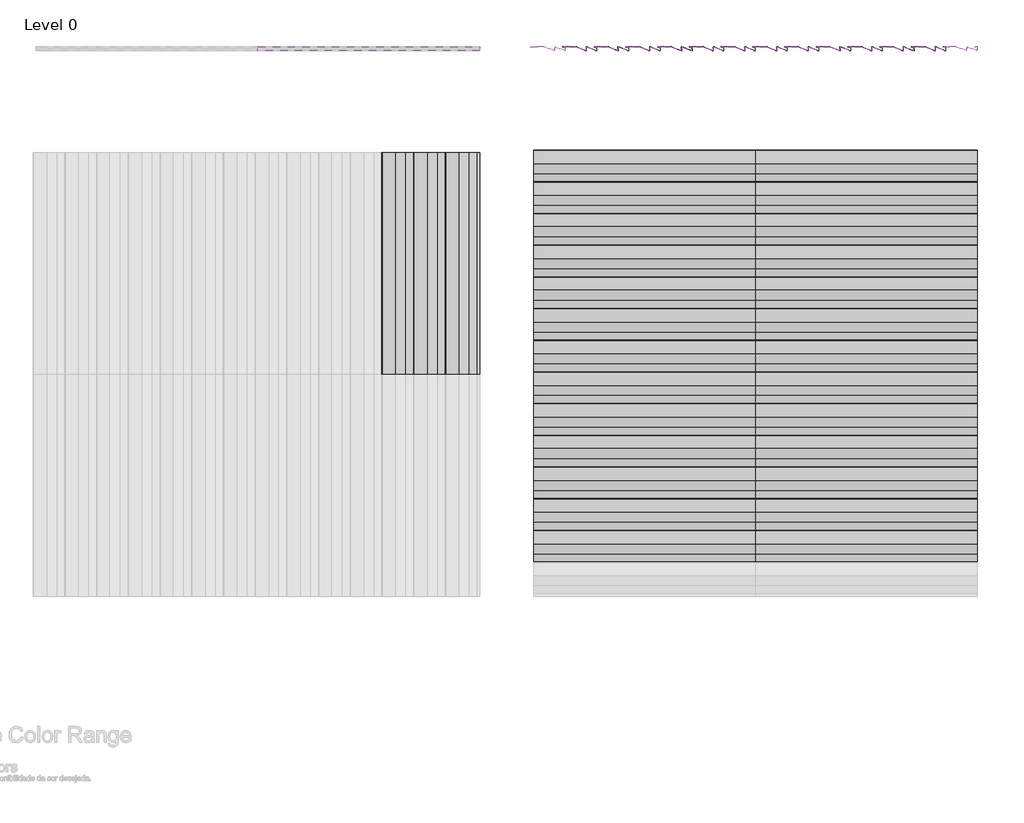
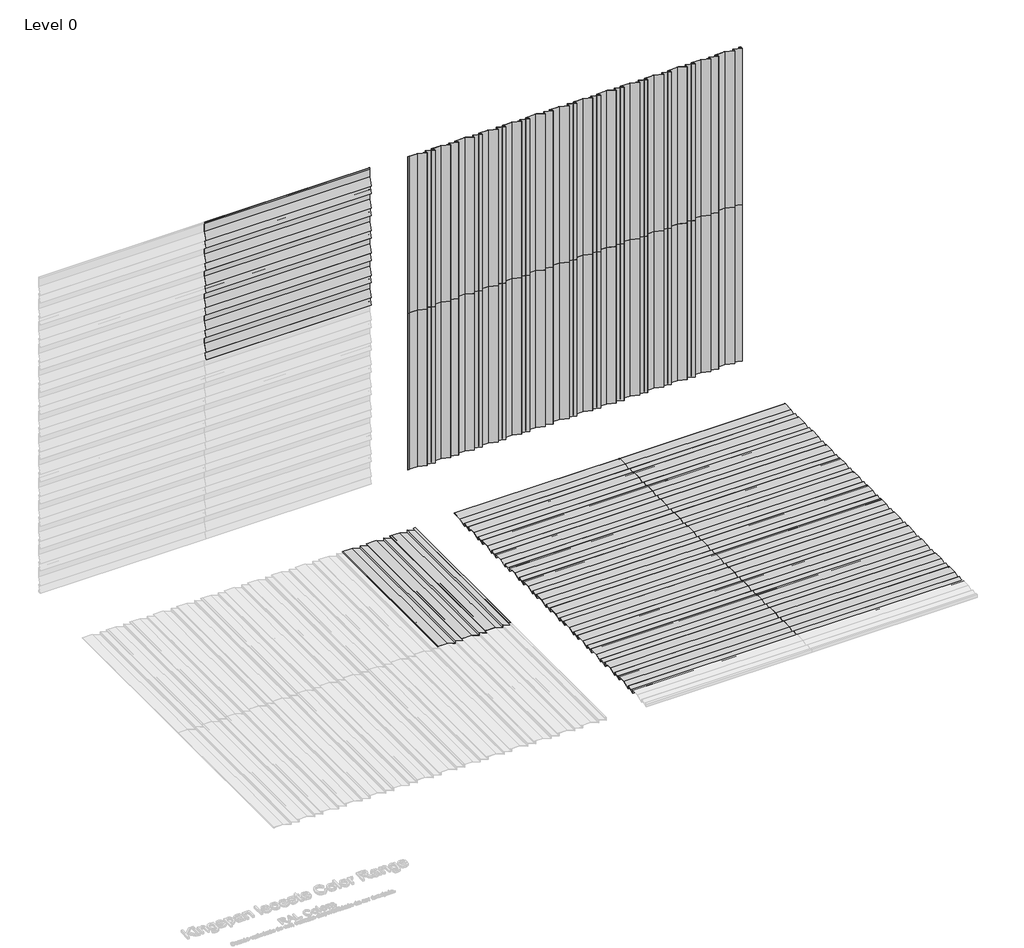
# One storey, part 2 of 2: 63 proxies.
"""IFC4 building model written with IfcOpenShell, lengths in millimetres."""

from ifc_helpers import new_model, si_unit, origin, place, context, project, spatial, transform, mapped, element, save
from components import ps3_0_standard_panel_ns_63d88878, ps3_0_standard_panel_ns_83fd88ae

model = new_model("IFC4")

# Units and contexts
model_context = context("Model", 3, world=origin())
ifc_project = project(units=[si_unit("LENGTHUNIT", "METRE", prefix="MILLI")], contexts=[model_context])

# Site, building, storey
site = spatial("IfcSite", under=ifc_project)
building = spatial("IfcBuilding", under=site)
storey = spatial("IfcBuildingStorey", under=building, Name="Level 0", Elevation=0.0)

# Proxies
placement = place(None, origin())
ps3_0_standard_panel_ns_shape = ps3_0_standard_panel_ns_63d88878(model_context)
element("IfcBuildingElementProxy", 1, Name="PS3.0 : Standard Panel_NS", ObjectType="PS3.0 : Standard Panel_NS", at=placement, inside=storey, context=model_context, shape_type="MappedRepresentation", body=[
    mapped(ps3_0_standard_panel_ns_shape, transform((2189.7088665, 5063.0274074, 0.0), x_axis=(0.0, 0.0, 1.0), y_axis=(-1.0, 0.0, 0.0), z_axis=(0.0, -1.0, 0.0))),
])
element("IfcBuildingElementProxy", 2, Name="PS3.0 : Standard Panel_NS", ObjectType="PS3.0 : Standard Panel_NS", at=placement, inside=storey, context=model_context, shape_type="MappedRepresentation", body=[
    mapped(ps3_0_standard_panel_ns_shape, transform((2189.7088665, 5063.0274074, 2100.0), x_axis=(0.0, 0.0, 1.0), y_axis=(-1.0, 0.0, 0.0), z_axis=(0.0, -1.0, 0.0))),
])
element("IfcBuildingElementProxy", 3, Name="PS3.0 : Standard Panel_NS", ObjectType="PS3.0 : Standard Panel_NS", at=placement, inside=storey, context=model_context, shape_type="MappedRepresentation", body=[
    mapped(ps3_0_standard_panel_ns_shape, transform((-1317.7637295, 5063.0274074, 3300.0), x_axis=(1.0, 0.0, 0.0), y_axis=(0.0, 0.0, 1.0), z_axis=(0.0, -1.0, 0.0))),
])
element("IfcBuildingElementProxy", 4, Name="PS3.0 : Standard Panel_NS", ObjectType="PS3.0 : Standard Panel_NS", at=placement, inside=storey, context=model_context, shape_type="MappedRepresentation", body=[
    mapped(ps3_0_standard_panel_ns_shape, transform((4589.7088665, 5063.0274074, 0.0), x_axis=(0.0, 0.0, 1.0), y_axis=(-1.0, 0.0, 0.0), z_axis=(0.0, -1.0, 0.0))),
])
element("IfcBuildingElementProxy", 5, Name="PS3.0 : Standard Panel_NS", ObjectType="PS3.0 : Standard Panel_NS", at=placement, inside=storey, context=model_context, shape_type="MappedRepresentation", body=[
    mapped(ps3_0_standard_panel_ns_shape, transform((4589.7088665, 5063.0274074, 2100.0), x_axis=(0.0, 0.0, 1.0), y_axis=(-1.0, 0.0, 0.0), z_axis=(0.0, -1.0, 0.0))),
])
ps3_0_standard_panel_ns_2_shape = ps3_0_standard_panel_ns_83fd88ae(model_context)
element("IfcBuildingElementProxy", 6, Name="PS3.0 : Standard Panel_NS", ObjectType="PS3.0 : Standard Panel_NS", at=placement, inside=storey, context=model_context, shape_type="MappedRepresentation", body=[
    mapped(ps3_0_standard_panel_ns_2_shape, transform((1289.7088668, 758.3113453, 0.0), x_axis=(1.0, 0.0, 0.0), y_axis=(0.0, 1.0, 0.0), z_axis=(0.0, 0.0, 1.0))),
])
element("IfcBuildingElementProxy", 7, Name="PS3.0 : Standard Panel_NS", ObjectType="PS3.0 : Standard Panel_NS", at=placement, inside=storey, context=model_context, shape_type="MappedRepresentation", body=[
    mapped(ps3_0_standard_panel_ns_2_shape, transform((1289.7088668, 3158.3113453, 0.0), x_axis=(1.0, 0.0, 0.0), y_axis=(0.0, 1.0, 0.0), z_axis=(0.0, 0.0, 1.0))),
])
element("IfcBuildingElementProxy", 8, Name="PS3.0 : Standard Panel_NS", ObjectType="PS3.0 : Standard Panel_NS", at=placement, inside=storey, context=model_context, shape_type="MappedRepresentation", body=[
    mapped(ps3_0_standard_panel_ns_2_shape, transform((3389.7088668, 758.3113453, 0.0), x_axis=(1.0, 0.0, 0.0), y_axis=(0.0, 1.0, 0.0), z_axis=(0.0, 0.0, 1.0))),
])
element("IfcBuildingElementProxy", 9, Name="PS3.0 : Standard Panel_NS", ObjectType="PS3.0 : Standard Panel_NS", at=placement, inside=storey, context=model_context, shape_type="MappedRepresentation", body=[
    mapped(ps3_0_standard_panel_ns_2_shape, transform((3389.7088668, 3158.3113453, 0.0), x_axis=(1.0, 0.0, 0.0), y_axis=(0.0, 1.0, 0.0), z_axis=(0.0, 0.0, 1.0))),
])
element("IfcBuildingElementProxy", 10, Name="PS3.0 : Standard Panel_NS", ObjectType="PS3.0 : Standard Panel_NS", at=placement, inside=storey, context=model_context, shape_type="MappedRepresentation", body=[
    mapped(ps3_0_standard_panel_ns_shape, transform((3089.7088665, 5063.0274074, 0.0), x_axis=(0.0, 0.0, 1.0), y_axis=(-1.0, 0.0, 0.0), z_axis=(0.0, -1.0, 0.0))),
])
element("IfcBuildingElementProxy", 11, Name="PS3.0 : Standard Panel_NS", ObjectType="PS3.0 : Standard Panel_NS", at=placement, inside=storey, context=model_context, shape_type="MappedRepresentation", body=[
    mapped(ps3_0_standard_panel_ns_shape, transform((3089.7088665, 5063.0274074, 2100.0), x_axis=(0.0, 0.0, 1.0), y_axis=(-1.0, 0.0, 0.0), z_axis=(0.0, -1.0, 0.0))),
])
element("IfcBuildingElementProxy", 12, Name="PS3.0 : Standard Panel_NS", ObjectType="PS3.0 : Standard Panel_NS", at=placement, inside=storey, context=model_context, shape_type="MappedRepresentation", body=[
    mapped(ps3_0_standard_panel_ns_shape, transform((-1317.7637295, 5063.0274074, 2400.0), x_axis=(1.0, 0.0, 0.0), y_axis=(0.0, 0.0, 1.0), z_axis=(0.0, -1.0, 0.0))),
])
element("IfcBuildingElementProxy", 13, Name="PS3.0 : Standard Panel_NS", ObjectType="PS3.0 : Standard Panel_NS", at=placement, inside=storey, context=model_context, shape_type="MappedRepresentation", body=[
    mapped(ps3_0_standard_panel_ns_shape, transform((5489.7088666, 5063.0274074, 0.0), x_axis=(0.0, 0.0, 1.0), y_axis=(-1.0, 0.0, 0.0), z_axis=(0.0, -1.0, 0.0))),
])
element("IfcBuildingElementProxy", 14, Name="PS3.0 : Standard Panel_NS", ObjectType="PS3.0 : Standard Panel_NS", at=placement, inside=storey, context=model_context, shape_type="MappedRepresentation", body=[
    mapped(ps3_0_standard_panel_ns_shape, transform((5489.7088666, 5063.0274074, 2100.0), x_axis=(0.0, 0.0, 1.0), y_axis=(-1.0, 0.0, 0.0), z_axis=(0.0, -1.0, 0.0))),
])
element("IfcBuildingElementProxy", 15, Name="PS3.0 : Standard Panel_NS", ObjectType="PS3.0 : Standard Panel_NS", at=placement, inside=storey, context=model_context, shape_type="MappedRepresentation", body=[
    mapped(ps3_0_standard_panel_ns_2_shape, transform((1289.7088668, 2258.3113453, 0.0), x_axis=(1.0, 0.0, 0.0), y_axis=(0.0, 1.0, 0.0), z_axis=(0.0, 0.0, 1.0))),
])
element("IfcBuildingElementProxy", 16, Name="PS3.0 : Standard Panel_NS", ObjectType="PS3.0 : Standard Panel_NS", at=placement, inside=storey, context=model_context, shape_type="MappedRepresentation", body=[
    mapped(ps3_0_standard_panel_ns_2_shape, transform((782.2362705, 1958.3113453, 0.0), x_axis=(0.0, 1.0, 0.0), y_axis=(-1.0, 0.0, 0.0), z_axis=(0.0, 0.0, 1.0))),
])
element("IfcBuildingElementProxy", 17, Name="PS3.0 : Standard Panel_NS", ObjectType="PS3.0 : Standard Panel_NS", at=placement, inside=storey, context=model_context, shape_type="MappedRepresentation", body=[
    mapped(ps3_0_standard_panel_ns_2_shape, transform((3389.7088668, 2258.3113453, 0.0), x_axis=(1.0, 0.0, 0.0), y_axis=(0.0, 1.0, 0.0), z_axis=(0.0, 0.0, 1.0))),
])
element("IfcBuildingElementProxy", 18, Name="PS3.0 : Standard Panel_NS", ObjectType="PS3.0 : Standard Panel_NS", at=placement, inside=storey, context=model_context, shape_type="MappedRepresentation", body=[
    mapped(ps3_0_standard_panel_ns_2_shape, transform((1289.7088668, 1358.3113453, 0.0), x_axis=(1.0, 0.0, 0.0), y_axis=(0.0, 1.0, 0.0), z_axis=(0.0, 0.0, 1.0))),
])
element("IfcBuildingElementProxy", 19, Name="PS3.0 : Standard Panel_NS", ObjectType="PS3.0 : Standard Panel_NS", at=placement, inside=storey, context=model_context, shape_type="MappedRepresentation", body=[
    mapped(ps3_0_standard_panel_ns_2_shape, transform((1289.7088668, 3758.3113453, 0.0), x_axis=(1.0, 0.0, 0.0), y_axis=(0.0, 1.0, 0.0), z_axis=(0.0, 0.0, 1.0))),
])
element("IfcBuildingElementProxy", 20, Name="PS3.0 : Standard Panel_NS", ObjectType="PS3.0 : Standard Panel_NS", at=placement, inside=storey, context=model_context, shape_type="MappedRepresentation", body=[
    mapped(ps3_0_standard_panel_ns_2_shape, transform((3389.7088668, 1358.3113453, 0.0), x_axis=(1.0, 0.0, 0.0), y_axis=(0.0, 1.0, 0.0), z_axis=(0.0, 0.0, 1.0))),
])
element("IfcBuildingElementProxy", 21, Name="PS3.0 : Standard Panel_NS", ObjectType="PS3.0 : Standard Panel_NS", at=placement, inside=storey, context=model_context, shape_type="MappedRepresentation", body=[
    mapped(ps3_0_standard_panel_ns_2_shape, transform((3389.7088668, 3758.3113453, 0.0), x_axis=(1.0, 0.0, 0.0), y_axis=(0.0, 1.0, 0.0), z_axis=(0.0, 0.0, 1.0))),
])
element("IfcBuildingElementProxy", 22, Name="PS3.0 : Standard Panel_NS", ObjectType="PS3.0 : Standard Panel_NS", at=placement, inside=storey, context=model_context, shape_type="MappedRepresentation", body=[
    mapped(ps3_0_standard_panel_ns_shape, transform((1589.7088666, 5063.0274074, 0.0), x_axis=(0.0, 0.0, 1.0), y_axis=(-1.0, 0.0, 0.0), z_axis=(0.0, -1.0, 0.0))),
])
element("IfcBuildingElementProxy", 23, Name="PS3.0 : Standard Panel_NS", ObjectType="PS3.0 : Standard Panel_NS", at=placement, inside=storey, context=model_context, shape_type="MappedRepresentation", body=[
    mapped(ps3_0_standard_panel_ns_shape, transform((1589.7088666, 5063.0274074, 2100.0), x_axis=(0.0, 0.0, 1.0), y_axis=(-1.0, 0.0, 0.0), z_axis=(0.0, -1.0, 0.0))),
])
element("IfcBuildingElementProxy", 24, Name="PS3.0 : Standard Panel_NS", ObjectType="PS3.0 : Standard Panel_NS", at=placement, inside=storey, context=model_context, shape_type="MappedRepresentation", body=[
    mapped(ps3_0_standard_panel_ns_shape, transform((-1317.7637295, 5063.0274074, 3900.0), x_axis=(1.0, 0.0, 0.0), y_axis=(0.0, 0.0, 1.0), z_axis=(0.0, -1.0, 0.0))),
])
element("IfcBuildingElementProxy", 25, Name="PS3.0 : Standard Panel_NS", ObjectType="PS3.0 : Standard Panel_NS", at=placement, inside=storey, context=model_context, shape_type="MappedRepresentation", body=[
    mapped(ps3_0_standard_panel_ns_shape, transform((3989.7088665, 5063.0274074, 0.0), x_axis=(0.0, 0.0, 1.0), y_axis=(-1.0, 0.0, 0.0), z_axis=(0.0, -1.0, 0.0))),
])
element("IfcBuildingElementProxy", 26, Name="PS3.0 : Standard Panel_NS", ObjectType="PS3.0 : Standard Panel_NS", at=placement, inside=storey, context=model_context, shape_type="MappedRepresentation", body=[
    mapped(ps3_0_standard_panel_ns_shape, transform((3989.7088665, 5063.0274074, 2100.0), x_axis=(0.0, 0.0, 1.0), y_axis=(-1.0, 0.0, 0.0), z_axis=(0.0, -1.0, 0.0))),
])
element("IfcBuildingElementProxy", 27, Name="PS3.0 : Standard Panel_NS", ObjectType="PS3.0 : Standard Panel_NS", at=placement, inside=storey, context=model_context, shape_type="MappedRepresentation", body=[
    mapped(ps3_0_standard_panel_ns_shape, transform((2789.7088665, 5063.0274074, 0.0), x_axis=(0.0, 0.0, 1.0), y_axis=(-1.0, 0.0, 0.0), z_axis=(0.0, -1.0, 0.0))),
])
element("IfcBuildingElementProxy", 28, Name="PS3.0 : Standard Panel_NS", ObjectType="PS3.0 : Standard Panel_NS", at=placement, inside=storey, context=model_context, shape_type="MappedRepresentation", body=[
    mapped(ps3_0_standard_panel_ns_shape, transform((2789.7088665, 5063.0274074, 2100.0), x_axis=(0.0, 0.0, 1.0), y_axis=(-1.0, 0.0, 0.0), z_axis=(0.0, -1.0, 0.0))),
])
element("IfcBuildingElementProxy", 29, Name="PS3.0 : Standard Panel_NS", ObjectType="PS3.0 : Standard Panel_NS", at=placement, inside=storey, context=model_context, shape_type="MappedRepresentation", body=[
    mapped(ps3_0_standard_panel_ns_shape, transform((-1317.7637295, 5063.0274074, 2700.0), x_axis=(1.0, 0.0, 0.0), y_axis=(0.0, 0.0, 1.0), z_axis=(0.0, -1.0, 0.0))),
])
element("IfcBuildingElementProxy", 30, Name="PS3.0 : Standard Panel_NS", ObjectType="PS3.0 : Standard Panel_NS", at=placement, inside=storey, context=model_context, shape_type="MappedRepresentation", body=[
    mapped(ps3_0_standard_panel_ns_shape, transform((5189.7088665, 5063.0274074, 0.0), x_axis=(0.0, 0.0, 1.0), y_axis=(-1.0, 0.0, 0.0), z_axis=(0.0, -1.0, 0.0))),
])
element("IfcBuildingElementProxy", 31, Name="PS3.0 : Standard Panel_NS", ObjectType="PS3.0 : Standard Panel_NS", at=placement, inside=storey, context=model_context, shape_type="MappedRepresentation", body=[
    mapped(ps3_0_standard_panel_ns_shape, transform((5189.7088665, 5063.0274074, 2100.0), x_axis=(0.0, 0.0, 1.0), y_axis=(-1.0, 0.0, 0.0), z_axis=(0.0, -1.0, 0.0))),
])
element("IfcBuildingElementProxy", 32, Name="PS3.0 : Standard Panel_NS", ObjectType="PS3.0 : Standard Panel_NS", at=placement, inside=storey, context=model_context, shape_type="MappedRepresentation", body=[
    mapped(ps3_0_standard_panel_ns_shape, transform((2489.7088665, 5063.0274074, 0.0), x_axis=(0.0, 0.0, 1.0), y_axis=(-1.0, 0.0, 0.0), z_axis=(0.0, -1.0, 0.0))),
])
element("IfcBuildingElementProxy", 33, Name="PS3.0 : Standard Panel_NS", ObjectType="PS3.0 : Standard Panel_NS", at=placement, inside=storey, context=model_context, shape_type="MappedRepresentation", body=[
    mapped(ps3_0_standard_panel_ns_shape, transform((2489.7088665, 5063.0274074, 2100.0), x_axis=(0.0, 0.0, 1.0), y_axis=(-1.0, 0.0, 0.0), z_axis=(0.0, -1.0, 0.0))),
])
element("IfcBuildingElementProxy", 34, Name="PS3.0 : Standard Panel_NS", ObjectType="PS3.0 : Standard Panel_NS", at=placement, inside=storey, context=model_context, shape_type="MappedRepresentation", body=[
    mapped(ps3_0_standard_panel_ns_shape, transform((-1317.7637295, 5063.0274074, 3000.0), x_axis=(1.0, 0.0, 0.0), y_axis=(0.0, 0.0, 1.0), z_axis=(0.0, -1.0, 0.0))),
])
element("IfcBuildingElementProxy", 35, Name="PS3.0 : Standard Panel_NS", ObjectType="PS3.0 : Standard Panel_NS", at=placement, inside=storey, context=model_context, shape_type="MappedRepresentation", body=[
    mapped(ps3_0_standard_panel_ns_shape, transform((4889.7088665, 5063.0274074, 0.0), x_axis=(0.0, 0.0, 1.0), y_axis=(-1.0, 0.0, 0.0), z_axis=(0.0, -1.0, 0.0))),
])
element("IfcBuildingElementProxy", 36, Name="PS3.0 : Standard Panel_NS", ObjectType="PS3.0 : Standard Panel_NS", at=placement, inside=storey, context=model_context, shape_type="MappedRepresentation", body=[
    mapped(ps3_0_standard_panel_ns_shape, transform((4889.7088665, 5063.0274074, 2100.0), x_axis=(0.0, 0.0, 1.0), y_axis=(-1.0, 0.0, 0.0), z_axis=(0.0, -1.0, 0.0))),
])
element("IfcBuildingElementProxy", 37, Name="PS3.0 : Standard Panel_NS", ObjectType="PS3.0 : Standard Panel_NS", at=placement, inside=storey, context=model_context, shape_type="MappedRepresentation", body=[
    mapped(ps3_0_standard_panel_ns_shape, transform((1889.7088665, 5063.0274074, 0.0), x_axis=(0.0, 0.0, 1.0), y_axis=(-1.0, 0.0, 0.0), z_axis=(0.0, -1.0, 0.0))),
])
element("IfcBuildingElementProxy", 38, Name="PS3.0 : Standard Panel_NS", ObjectType="PS3.0 : Standard Panel_NS", at=placement, inside=storey, context=model_context, shape_type="MappedRepresentation", body=[
    mapped(ps3_0_standard_panel_ns_shape, transform((1889.7088665, 5063.0274074, 2100.0), x_axis=(0.0, 0.0, 1.0), y_axis=(-1.0, 0.0, 0.0), z_axis=(0.0, -1.0, 0.0))),
])
element("IfcBuildingElementProxy", 39, Name="PS3.0 : Standard Panel_NS", ObjectType="PS3.0 : Standard Panel_NS", at=placement, inside=storey, context=model_context, shape_type="MappedRepresentation", body=[
    mapped(ps3_0_standard_panel_ns_shape, transform((-1317.7637295, 5063.0274074, 3600.0), x_axis=(1.0, 0.0, 0.0), y_axis=(0.0, 0.0, 1.0), z_axis=(0.0, -1.0, 0.0))),
])
element("IfcBuildingElementProxy", 40, Name="PS3.0 : Standard Panel_NS", ObjectType="PS3.0 : Standard Panel_NS", at=placement, inside=storey, context=model_context, shape_type="MappedRepresentation", body=[
    mapped(ps3_0_standard_panel_ns_shape, transform((4289.7088665, 5063.0274074, 0.0), x_axis=(0.0, 0.0, 1.0), y_axis=(-1.0, 0.0, 0.0), z_axis=(0.0, -1.0, 0.0))),
])
element("IfcBuildingElementProxy", 41, Name="PS3.0 : Standard Panel_NS", ObjectType="PS3.0 : Standard Panel_NS", at=placement, inside=storey, context=model_context, shape_type="MappedRepresentation", body=[
    mapped(ps3_0_standard_panel_ns_shape, transform((4289.7088665, 5063.0274074, 2100.0), x_axis=(0.0, 0.0, 1.0), y_axis=(-1.0, 0.0, 0.0), z_axis=(0.0, -1.0, 0.0))),
])
element("IfcBuildingElementProxy", 42, Name="PS3.0 : Standard Panel_NS", ObjectType="PS3.0 : Standard Panel_NS", at=placement, inside=storey, context=model_context, shape_type="MappedRepresentation", body=[
    mapped(ps3_0_standard_panel_ns_shape, transform((3689.7088665, 5063.0274074, 0.0), x_axis=(0.0, 0.0, 1.0), y_axis=(-1.0, 0.0, 0.0), z_axis=(0.0, -1.0, 0.0))),
])
element("IfcBuildingElementProxy", 43, Name="PS3.0 : Standard Panel_NS", ObjectType="PS3.0 : Standard Panel_NS", at=placement, inside=storey, context=model_context, shape_type="MappedRepresentation", body=[
    mapped(ps3_0_standard_panel_ns_shape, transform((3689.7088665, 5063.0274074, 2100.0), x_axis=(0.0, 0.0, 1.0), y_axis=(-1.0, 0.0, 0.0), z_axis=(0.0, -1.0, 0.0))),
])
element("IfcBuildingElementProxy", 44, Name="PS3.0 : Standard Panel_NS", ObjectType="PS3.0 : Standard Panel_NS", at=placement, inside=storey, context=model_context, shape_type="MappedRepresentation", body=[
    mapped(ps3_0_standard_panel_ns_shape, transform((3389.7088665, 5063.0274074, 0.0), x_axis=(0.0, 0.0, 1.0), y_axis=(-1.0, 0.0, 0.0), z_axis=(0.0, -1.0, 0.0))),
])
element("IfcBuildingElementProxy", 45, Name="PS3.0 : Standard Panel_NS", ObjectType="PS3.0 : Standard Panel_NS", at=placement, inside=storey, context=model_context, shape_type="MappedRepresentation", body=[
    mapped(ps3_0_standard_panel_ns_shape, transform((3389.7088665, 5063.0274074, 2100.0), x_axis=(0.0, 0.0, 1.0), y_axis=(-1.0, 0.0, 0.0), z_axis=(0.0, -1.0, 0.0))),
])
element("IfcBuildingElementProxy", 46, Name="PS3.0 : Standard Panel_NS", ObjectType="PS3.0 : Standard Panel_NS", at=placement, inside=storey, context=model_context, shape_type="MappedRepresentation", body=[
    mapped(ps3_0_standard_panel_ns_2_shape, transform((1289.7088668, 158.3113453, 0.0), x_axis=(1.0, 0.0, 0.0), y_axis=(0.0, 1.0, 0.0), z_axis=(0.0, 0.0, 1.0))),
])
element("IfcBuildingElementProxy", 47, Name="PS3.0 : Standard Panel_NS", ObjectType="PS3.0 : Standard Panel_NS", at=placement, inside=storey, context=model_context, shape_type="MappedRepresentation", body=[
    mapped(ps3_0_standard_panel_ns_2_shape, transform((1289.7088668, 2558.3113453, 0.0), x_axis=(1.0, 0.0, 0.0), y_axis=(0.0, 1.0, 0.0), z_axis=(0.0, 0.0, 1.0))),
])
element("IfcBuildingElementProxy", 48, Name="PS3.0 : Standard Panel_NS", ObjectType="PS3.0 : Standard Panel_NS", at=placement, inside=storey, context=model_context, shape_type="MappedRepresentation", body=[
    mapped(ps3_0_standard_panel_ns_2_shape, transform((482.2362703, 1958.3113453, 0.0), x_axis=(0.0, 1.0, 0.0), y_axis=(-1.0, 0.0, 0.0), z_axis=(0.0, 0.0, 1.0))),
])
element("IfcBuildingElementProxy", 49, Name="PS3.0 : Standard Panel_NS", ObjectType="PS3.0 : Standard Panel_NS", at=placement, inside=storey, context=model_context, shape_type="MappedRepresentation", body=[
    mapped(ps3_0_standard_panel_ns_2_shape, transform((3389.7088668, 158.3113453, 0.0), x_axis=(1.0, 0.0, 0.0), y_axis=(0.0, 1.0, 0.0), z_axis=(0.0, 0.0, 1.0))),
])
element("IfcBuildingElementProxy", 50, Name="PS3.0 : Standard Panel_NS", ObjectType="PS3.0 : Standard Panel_NS", at=placement, inside=storey, context=model_context, shape_type="MappedRepresentation", body=[
    mapped(ps3_0_standard_panel_ns_2_shape, transform((3389.7088668, 2558.3113453, 0.0), x_axis=(1.0, 0.0, 0.0), y_axis=(0.0, 1.0, 0.0), z_axis=(0.0, 0.0, 1.0))),
])
element("IfcBuildingElementProxy", 51, Name="PS3.0 : Standard Panel_NS", ObjectType="PS3.0 : Standard Panel_NS", at=placement, inside=storey, context=model_context, shape_type="MappedRepresentation", body=[
    mapped(ps3_0_standard_panel_ns_2_shape, transform((1289.7088668, 458.3113453, 0.0), x_axis=(1.0, 0.0, 0.0), y_axis=(0.0, 1.0, 0.0), z_axis=(0.0, 0.0, 1.0))),
])
element("IfcBuildingElementProxy", 52, Name="PS3.0 : Standard Panel_NS", ObjectType="PS3.0 : Standard Panel_NS", at=placement, inside=storey, context=model_context, shape_type="MappedRepresentation", body=[
    mapped(ps3_0_standard_panel_ns_2_shape, transform((1289.7088668, 2858.3113453, 0.0), x_axis=(1.0, 0.0, 0.0), y_axis=(0.0, 1.0, 0.0), z_axis=(0.0, 0.0, 1.0))),
])
element("IfcBuildingElementProxy", 53, Name="PS3.0 : Standard Panel_NS", ObjectType="PS3.0 : Standard Panel_NS", at=placement, inside=storey, context=model_context, shape_type="MappedRepresentation", body=[
    mapped(ps3_0_standard_panel_ns_2_shape, transform((182.2362703, 1958.3113453, 0.0), x_axis=(0.0, 1.0, 0.0), y_axis=(-1.0, 0.0, 0.0), z_axis=(0.0, 0.0, 1.0))),
])
element("IfcBuildingElementProxy", 54, Name="PS3.0 : Standard Panel_NS", ObjectType="PS3.0 : Standard Panel_NS", at=placement, inside=storey, context=model_context, shape_type="MappedRepresentation", body=[
    mapped(ps3_0_standard_panel_ns_2_shape, transform((3389.7088668, 458.3113453, 0.0), x_axis=(1.0, 0.0, 0.0), y_axis=(0.0, 1.0, 0.0), z_axis=(0.0, 0.0, 1.0))),
])
element("IfcBuildingElementProxy", 55, Name="PS3.0 : Standard Panel_NS", ObjectType="PS3.0 : Standard Panel_NS", at=placement, inside=storey, context=model_context, shape_type="MappedRepresentation", body=[
    mapped(ps3_0_standard_panel_ns_2_shape, transform((3389.7088668, 2858.3113453, 0.0), x_axis=(1.0, 0.0, 0.0), y_axis=(0.0, 1.0, 0.0), z_axis=(0.0, 0.0, 1.0))),
])
element("IfcBuildingElementProxy", 56, Name="PS3.0 : Standard Panel_NS", ObjectType="PS3.0 : Standard Panel_NS", at=placement, inside=storey, context=model_context, shape_type="MappedRepresentation", body=[
    mapped(ps3_0_standard_panel_ns_2_shape, transform((1289.7088668, 1058.3113453, 0.0), x_axis=(1.0, 0.0, 0.0), y_axis=(0.0, 1.0, 0.0), z_axis=(0.0, 0.0, 1.0))),
])
element("IfcBuildingElementProxy", 57, Name="PS3.0 : Standard Panel_NS", ObjectType="PS3.0 : Standard Panel_NS", at=placement, inside=storey, context=model_context, shape_type="MappedRepresentation", body=[
    mapped(ps3_0_standard_panel_ns_2_shape, transform((1289.7088668, 3458.3113453, 0.0), x_axis=(1.0, 0.0, 0.0), y_axis=(0.0, 1.0, 0.0), z_axis=(0.0, 0.0, 1.0))),
])
element("IfcBuildingElementProxy", 58, Name="PS3.0 : Standard Panel_NS", ObjectType="PS3.0 : Standard Panel_NS", at=placement, inside=storey, context=model_context, shape_type="MappedRepresentation", body=[
    mapped(ps3_0_standard_panel_ns_2_shape, transform((3389.7088668, 1058.3113453, 0.0), x_axis=(1.0, 0.0, 0.0), y_axis=(0.0, 1.0, 0.0), z_axis=(0.0, 0.0, 1.0))),
])
element("IfcBuildingElementProxy", 59, Name="PS3.0 : Standard Panel_NS", ObjectType="PS3.0 : Standard Panel_NS", at=placement, inside=storey, context=model_context, shape_type="MappedRepresentation", body=[
    mapped(ps3_0_standard_panel_ns_2_shape, transform((3389.7088668, 3458.3113453, 0.0), x_axis=(1.0, 0.0, 0.0), y_axis=(0.0, 1.0, 0.0), z_axis=(0.0, 0.0, 1.0))),
])
element("IfcBuildingElementProxy", 60, Name="PS3.0 : Standard Panel_NS", ObjectType="PS3.0 : Standard Panel_NS", at=placement, inside=storey, context=model_context, shape_type="MappedRepresentation", body=[
    mapped(ps3_0_standard_panel_ns_2_shape, transform((1289.7088668, 1658.3113453, 0.0), x_axis=(1.0, 0.0, 0.0), y_axis=(0.0, 1.0, 0.0), z_axis=(0.0, 0.0, 1.0))),
])
element("IfcBuildingElementProxy", 61, Name="PS3.0 : Standard Panel_NS", ObjectType="PS3.0 : Standard Panel_NS", at=placement, inside=storey, context=model_context, shape_type="MappedRepresentation", body=[
    mapped(ps3_0_standard_panel_ns_2_shape, transform((3389.7088668, 1658.3113453, 0.0), x_axis=(1.0, 0.0, 0.0), y_axis=(0.0, 1.0, 0.0), z_axis=(0.0, 0.0, 1.0))),
])
element("IfcBuildingElementProxy", 62, Name="PS3.0 : Standard Panel_NS", ObjectType="PS3.0 : Standard Panel_NS", at=placement, inside=storey, context=model_context, shape_type="MappedRepresentation", body=[
    mapped(ps3_0_standard_panel_ns_2_shape, transform((1289.7088668, 1958.3113453, 0.0), x_axis=(1.0, 0.0, 0.0), y_axis=(0.0, 1.0, 0.0), z_axis=(0.0, 0.0, 1.0))),
])
element("IfcBuildingElementProxy", 63, Name="PS3.0 : Standard Panel_NS", ObjectType="PS3.0 : Standard Panel_NS", at=placement, inside=storey, context=model_context, shape_type="MappedRepresentation", body=[
    mapped(ps3_0_standard_panel_ns_2_shape, transform((3389.7088668, 1958.3113453, 0.0), x_axis=(1.0, 0.0, 0.0), y_axis=(0.0, 1.0, 0.0), z_axis=(0.0, 0.0, 1.0))),
])

save(model, "model.ifc")
